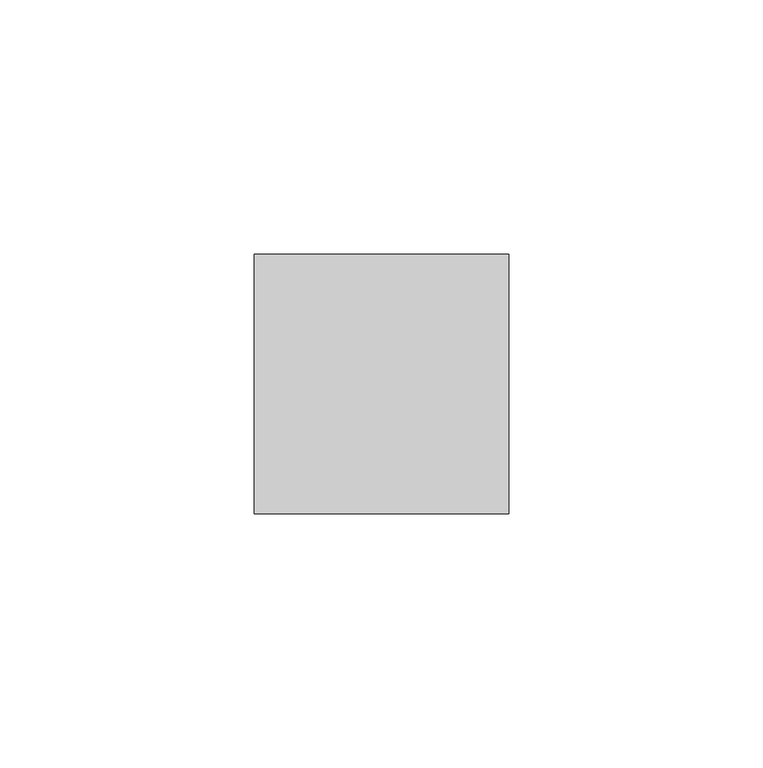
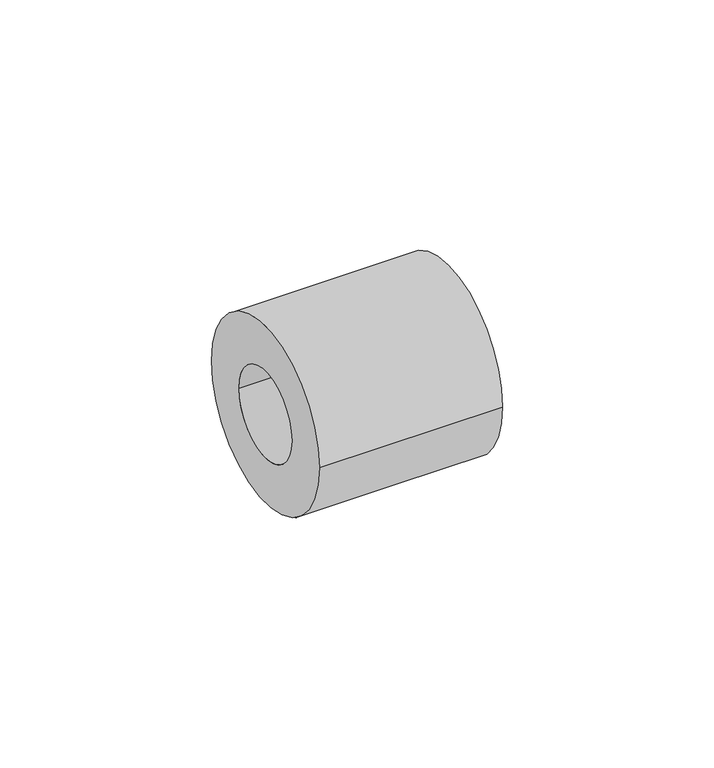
"""IFC4 building model written with IfcOpenShell, lengths in millimetres: pipe fitting geometry, СТ_Подвесы_ДляТруб_IsotermSM_D10-325_СимфонияТепла : Isoterm SM 13-25."""

from ifc_helpers import new_model, si_unit, point, frame, origin, origin_2d, place, context, project, spatial, circle_curve, trimmed, segment, composite_curve, outline, extrude, source, transform, mapped, element, save


def pipe_fitting_10d38b48(model_context):
    return source(origin(), model_context, "Body", "SweptSolid", [
        extrude(outline(composite_curve([segment(trimmed(circle_curve(origin_2d(), 25.5), [point((-25.5, 0.0))], [point((25.5, 0.0))], False, "CARTESIAN"), True, "CONTINUOUS"), segment(trimmed(circle_curve(origin_2d(), 25.5), [point((25.5, 0.0))], [point((-25.5, 0.0))], False, "CARTESIAN"), True, "CONTINUOUS")], self_intersect=False), holes=[composite_curve([segment(trimmed(circle_curve(origin_2d(), 12.5), [point((-12.5, 0.0))], [point((12.5, 0.0))], True, "CARTESIAN"), True, "CONTINUOUS"), segment(trimmed(circle_curve(origin_2d(), 12.5), [point((12.5, 0.0))], [point((-12.5, 0.0))], True, "CARTESIAN"), True, "CONTINUOUS")], self_intersect=False)]), frame((-25.0, 0.0, 0.0), z_axis=(1.0, 0.0, 0.0), x_axis=(0.0, 1.0, 0.0)), (0.0, 0.0, 1.0), 50.0),
    ])


if __name__ == "__main__":
    model = new_model("IFC4")
    model_context = context("Model", 3, world=origin())
    ifc_project = project(units=[si_unit("LENGTHUNIT", "METRE", prefix="MILLI")], contexts=[model_context])
    site = spatial("IfcSite", under=ifc_project)
    building = spatial("IfcBuilding", under=site)
    placement = place(None, origin())
    pipe_fitting_shape = pipe_fitting_10d38b48(model_context)
    element("IfcPipeFitting", 1, ObjectType="СТ_Подвесы_ДляТруб_IsotermSM_D10-325_СимфонияТепла : Isoterm SM 13-25", at=placement, inside=building, context=model_context, shape_type="MappedRepresentation", body=[
        mapped(pipe_fitting_shape, transform((0.0, 0.0, 0.0), x_axis=(1.0, 0.0, 0.0), y_axis=(0.0, 1.0, 0.0), z_axis=(0.0, 0.0, 1.0))),
    ])
    save(model, "model.ifc")
